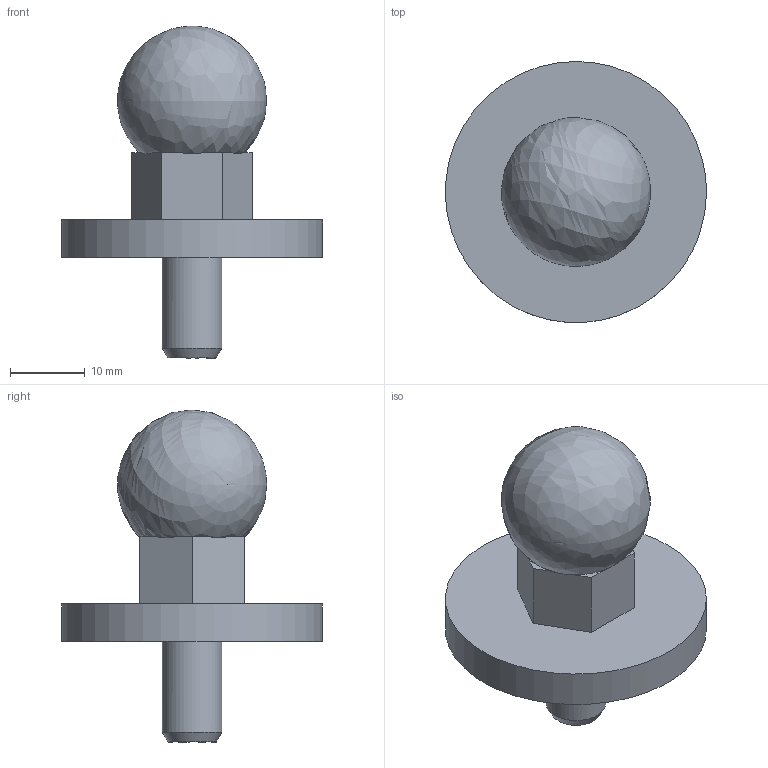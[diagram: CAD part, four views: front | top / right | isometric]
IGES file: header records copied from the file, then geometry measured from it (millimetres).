
Global section: file name: 20.03; native system: Autodesk Inventor 2019; preprocessor: unknown; author: AP.to; date: 20201021.162003; units: millimetre
Bounding box: 34.99 x 34.97 x 44.5 mm (x, y, z)
Volume: 11001.8 mm3; surface area: 6104.9 mm2
Topology: 4 solids, 4 shells, 35 faces, 89 edges, 60 vertices
Faces by surface type: bspline 35
